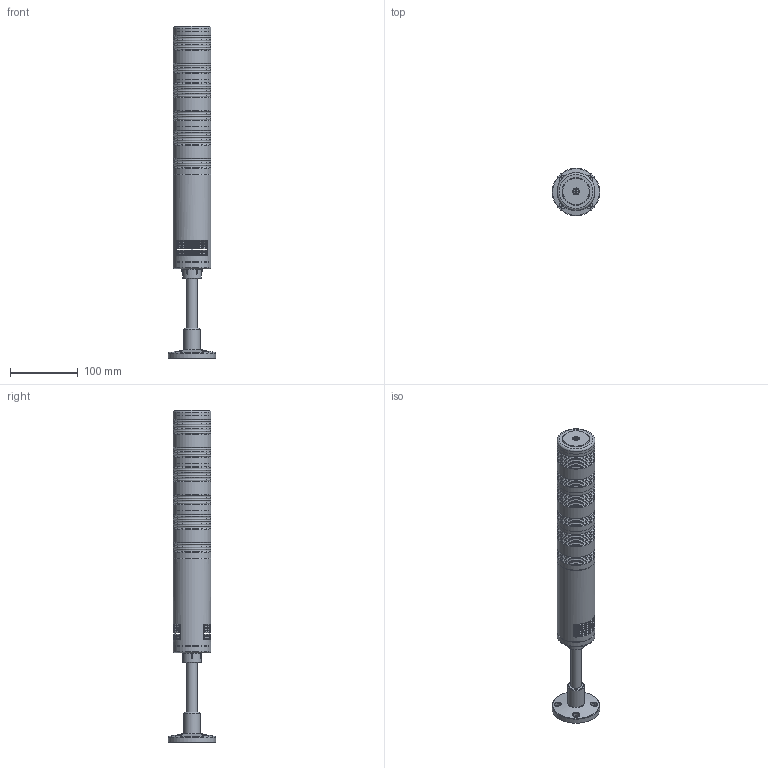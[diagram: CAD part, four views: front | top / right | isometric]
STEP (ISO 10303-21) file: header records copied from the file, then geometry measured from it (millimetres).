
FILE_DESCRIPTION(('STEP AP214'), '1');
FILE_NAME('ñâåòîñèãíàëüíàÿ êîëîííà 3', '', ('UNSPECIFIED'), ('UNSPECIFIED'), 'C3D Converter', 'C3D Toolkit', '');
FILE_SCHEMA(('AUTOMOTIVE_DESIGN { 1 0 10303 214 3 1 1}'));
Length unit declared in the file: millimetre
Products named in the file (10): -01
Assembly tree (9 placements, depth 2):
  (unnamed)
    (unnamed)
    (unnamed)
    -01
    (unnamed)
    (unnamed)
    -01
    (unnamed)
    (unnamed)
    (unnamed)
Bounding box: 70 x 70 x 489.94 mm (x, y, z)
Volume: 283239.8 mm3; surface area: 162728.4 mm2
Topology: 9 solids, 9 shells, 352 faces, 924 edges, 588 vertices
Faces by surface type: plane 156, torus 86, cylinder 80, cone 25, bspline 4, sphere 1
Full cylindrical faces by diameter (mm): 4.613 x1, 5.5 x4, 8.2 x2, 10 x4, 16 x3, 19 x1, 22.4 x1, 24 x1, 25 x1, 28 x1, 48 x3, 50 x1, 56 x12, 70 x1
Entity records: 15282 total; most frequent: CARTESIAN_POINT 5216, DIRECTION 1745, ORIENTED_EDGE 1634, EDGE_CURVE 817, AXIS2_PLACEMENT_3D 691, VERTEX_POINT 587, EDGE_LOOP 523, LINE 363
